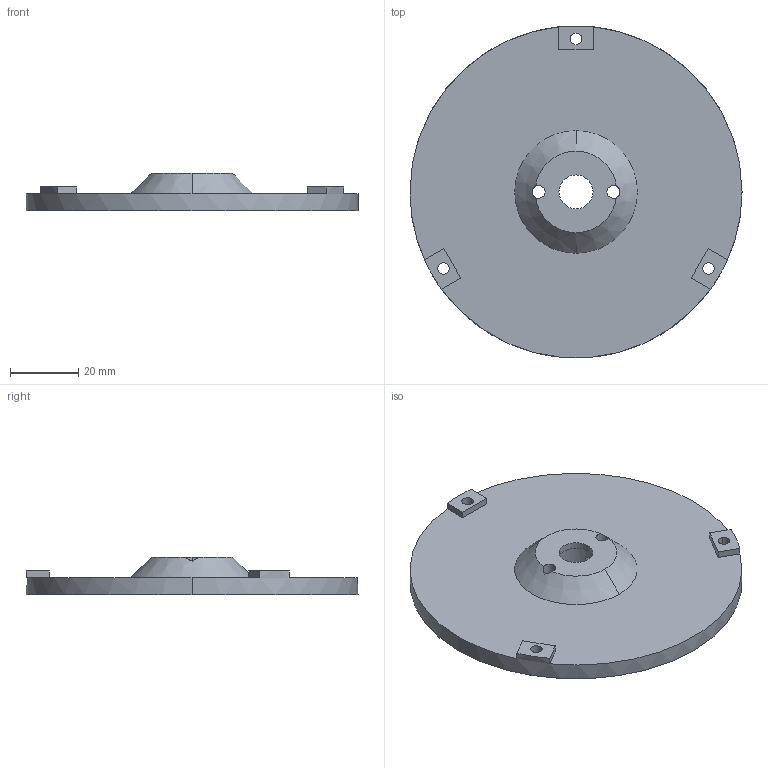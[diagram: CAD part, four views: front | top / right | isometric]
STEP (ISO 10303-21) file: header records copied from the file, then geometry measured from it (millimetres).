
FILE_DESCRIPTION((''),'2;1');
FILE_NAME('ART2BODYAWINDOW','2022-08-24T09:22:21',('domen.bizjak'),('Audax d.o.o.'),'CREO PARAMETRIC BY PTC INC, 2021184','CREO PARAMETRIC BY PTC INC, 2021184','');
FILE_SCHEMA(('AP242_MANAGED_MODEL_BASED_3D_ENGINEERING_MIM_LF { 1 0 10303 442 1 1 4 }'));
Length unit declared in the file: millimetre
Products named in the file (1): ART2BODYAWINDOW
Bounding box: 97.6 x 97.6 x 11 mm (x, y, z)
Volume: 39125.8 mm3; surface area: 17778.3 mm2
Topology: 1 solids, 1 shells, 51 faces, 147 edges, 106 vertices
Faces by surface type: plane 27, cylinder 22, cone 2
Entity records: 3439 total; most frequent: DIRECTION 353, CARTESIAN_POINT 346, COLOUR_RGB 319, ORIENTED_EDGE 284, PRESENTATION_STYLE_ASSIGNMENT 203, STYLED_ITEM 156, CURVE_STYLE 149, EDGE_CURVE 142
